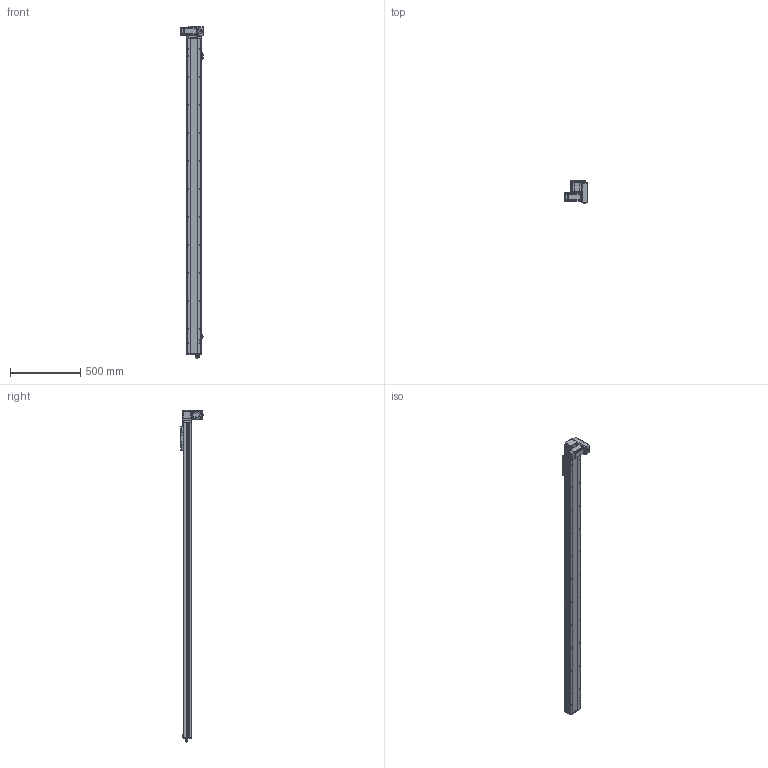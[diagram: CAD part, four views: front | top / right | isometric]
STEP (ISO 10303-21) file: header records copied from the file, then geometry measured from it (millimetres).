
FILE_DESCRIPTION (( 'STEP AP214' ), '1' );
FILE_NAME ('TPE10-L41.6-2000-RD-P20-C4.STEP', '2023-03-13T02:27:11', ( '' ), ( '' ), 'SwSTEP 2.0', 'SolidWorks 2020', '' );
FILE_SCHEMA (( 'AUTOMOTIVE_DESIGN' ));
Length unit declared in the file: millimetre
Products named in the file (16): hexagon socket head cap screws gb_GB_FASTENER_SCREWS_HSHCS M3X6-N; 葩璃 侂狟100W^TPE10-L41.6-RD-P20-C4; 葩璃 TPF10-L-008 耜醱啣^TPE10-L41.6-RD-P20-C4; hexagon head bolts-full thread gb_GB_FASTENER_BOLT_STBAB A M5X16-N; 葩璃 TPF10 詩湍揤啣 TPF10 12^TPE10-L41.6-RD-P20-C4; 葩璃 TPE10-L-002 耜裔ZTMT-102B-04^TPE10-L41.6-RD-P20-C4; 葩璃 詩湍75^TPE10-L41.6-RD-P20-C4; 葩璃 pm-t65-672^TPE10-L41.6-RD-P20-C4; 葩璃 TPE10-L-001 菁釱MZ-102A-01^TPE10-L41.6-RD-P20-C4; hex nuts, style 1-grades ab gb_GB_FASTENER_NUT_SNAB1 M3-N; 葩璃 TPE10 賑雄殤 TPE10^TPE10-L41.6-RD-P20-C4; 葩璃 侂狟400W^TPE10-L41.6-RD-P20-C4; 葩璃 TPE10-007 々湍釱MZ-169x88^TPE10-L41.6-RD-P20-C4; 葩璃 TPT10-L-009 萇儂啣^TPE10-L41.6-RD-P20-C4_200W; TPE10-L41.6-2000-RD-P20-C4; 葩璃 PL8-02^TPE10-L41.6-RD-P20-C4
Assembly tree (29 placements, depth 2):
  TPE10-L41.6-2000-RD-P20-C4
    葩璃 TPE10-L-001 菁釱MZ-102A-01^TPE10-L41.6-RD-P20-C4
    葩璃 TPE10-L-002 耜裔ZTMT-102B-04^TPE10-L41.6-RD-P20-C4  x2
    葩璃 詩湍75^TPE10-L41.6-RD-P20-C4
    葩璃 TPE10-007 々湍釱MZ-169x88^TPE10-L41.6-RD-P20-C4
    葩璃 TPF10-L-008 耜醱啣^TPE10-L41.6-RD-P20-C4
    葩璃 TPE10 賑雄殤 TPE10^TPE10-L41.6-RD-P20-C4
    葩璃 TPF10 詩湍揤啣 TPF10 12^TPE10-L41.6-RD-P20-C4  x2
    葩璃 TPT10-L-009 萇儂啣^TPE10-L41.6-RD-P20-C4_200W
    葩璃 pm-t65-672^TPE10-L41.6-RD-P20-C4  x3
    葩璃 PL8-02^TPE10-L41.6-RD-P20-C4
    葩璃 侂狟100W^TPE10-L41.6-RD-P20-C4
    葩璃 侂狟400W^TPE10-L41.6-RD-P20-C4
    hexagon socket head cap screws gb_GB_FASTENER_SCREWS_HSHCS M3X6-N  x6
    hex nuts, style 1-grades ab gb_GB_FASTENER_NUT_SNAB1 M3-N  x6
    hexagon head bolts-full thread gb_GB_FASTENER_BOLT_STBAB A M5X16-N
Bounding box: 162.5 x 162.15 x 2368.35 mm (x, y, z)
Volume: 7602281.3 mm3; surface area: 1847879.8 mm2
Topology: 37 solids, 37 shells, 2077 faces, 5321 edges, 3364 vertices
Faces by surface type: plane 1106, cylinder 661, cone 240, bspline 42, torus 26, sphere 2
Entity records: 52224 total; most frequent: CARTESIAN_POINT 10690, DIRECTION 8384, ORIENTED_EDGE 8034, EDGE_CURVE 4017, AXIS2_PLACEMENT_3D 2956, VERTEX_POINT 2591, VECTOR 2472, LINE 2472
